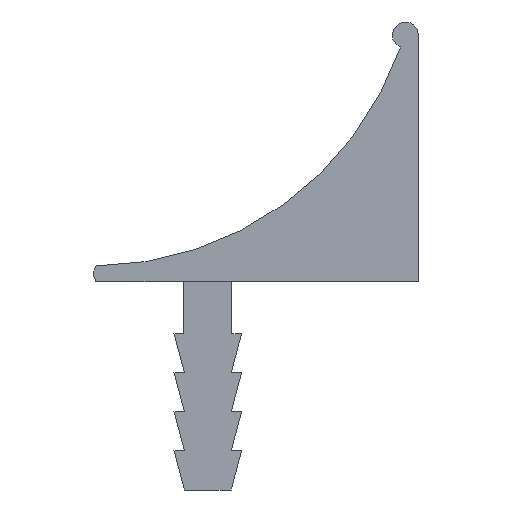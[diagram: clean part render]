
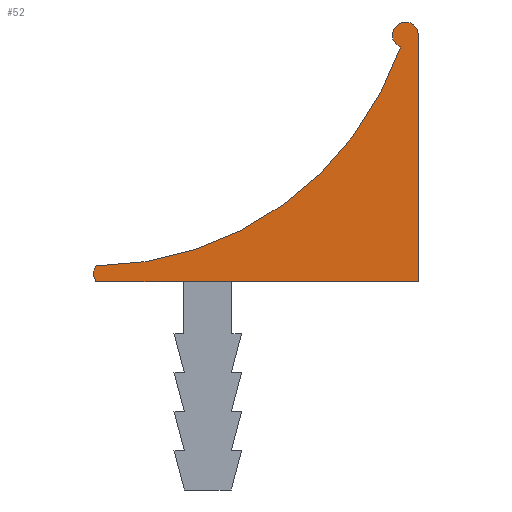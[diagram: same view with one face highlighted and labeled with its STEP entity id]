
A CAD part, left-side view. The second image highlights one B-rep face of the part: STEP entity #52.
In plain terms, the highlighted planar face has unit normal (-1, 0, 0).
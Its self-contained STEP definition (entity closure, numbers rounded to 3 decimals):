
#52 = ADVANCED_FACE( '', ( #125 ), #126, .F. );
#125 = FACE_OUTER_BOUND( '', #217, .T. );
#126 = PLANE( '', #218 );
#217 = EDGE_LOOP( '', ( #303, #304, #305, #306, #307 ) );
#218 = AXIS2_PLACEMENT_3D( '', #308, #309, #310 );
#303 = ORIENTED_EDGE( '', *, *, #565, .F. );
#304 = ORIENTED_EDGE( '', *, *, #566, .F. );
#305 = ORIENTED_EDGE( '', *, *, #567, .F. );
#306 = ORIENTED_EDGE( '', *, *, #568, .F. );
#307 = ORIENTED_EDGE( '', *, *, #569, .T. );
#308 = CARTESIAN_POINT( '', ( -30., 3.507, 21.117 ) );
#309 = DIRECTION( '', ( 1., 0., 0. ) );
#310 = DIRECTION( '', ( 0., 0., -1. ) );
#565 = EDGE_CURVE( '', #668, #669, #670, .T. );
#566 = EDGE_CURVE( '', #671, #668, #672, .T. );
#567 = EDGE_CURVE( '', #673, #671, #674, .T. );
#568 = EDGE_CURVE( '', #675, #673, #676, .T. );
#569 = EDGE_CURVE( '', #675, #669, #677, .T. );
#668 = VERTEX_POINT( '', #821 );
#669 = VERTEX_POINT( '', #822 );
#670 = CIRCLE( '', #823, 0.5 );
#671 = VERTEX_POINT( '', #824 );
#672 = LINE( '', #825, #826 );
#673 = VERTEX_POINT( '', #827 );
#674 = LINE( '', #828, #829 );
#675 = VERTEX_POINT( '', #830 );
#676 = CIRCLE( '', #831, 0.502 );
#677 = CIRCLE( '', #832, 12.5 );
#821 = CARTESIAN_POINT( '', ( -30., 3.402, 8. ) );
#822 = CARTESIAN_POINT( '', ( -30., 3.386, 8.617 ) );
#823 = AXIS2_PLACEMENT_3D( '', #1042, #1043, #1044 );
#824 = CARTESIAN_POINT( '', ( -30., -8.998, 8. ) );
#825 = CARTESIAN_POINT( '', ( -30., -8.998, 8. ) );
#826 = VECTOR( '', #1045, 1000. );
#827 = CARTESIAN_POINT( '', ( -30., -8.998, 17.501 ) );
#828 = CARTESIAN_POINT( '', ( -30., -8.998, 17.501 ) );
#829 = VECTOR( '', #1046, 1000. );
#830 = CARTESIAN_POINT( '', ( -30., -8.308, 17.036 ) );
#831 = AXIS2_PLACEMENT_3D( '', #1047, #1048, #1049 );
#832 = AXIS2_PLACEMENT_3D( '', #1050, #1051, #1052 );
#1042 = CARTESIAN_POINT( '', ( -30., 3.001, 8.299 ) );
#1043 = DIRECTION( '', ( 1., 0., 0. ) );
#1044 = DIRECTION( '', ( 0., 0., -1. ) );
#1045 = DIRECTION( '', ( 0., 1., 0. ) );
#1046 = DIRECTION( '', ( 0., 0., -1. ) );
#1047 = CARTESIAN_POINT( '', ( -30., -8.496, 17.501 ) );
#1048 = DIRECTION( '', ( 1., 0., 0. ) );
#1049 = DIRECTION( '', ( 0., 0., -1. ) );
#1050 = CARTESIAN_POINT( '', ( -30., 3.507, 21.117 ) );
#1051 = DIRECTION( '', ( 1., 0., 0. ) );
#1052 = DIRECTION( '', ( 0., 0., -1. ) );
